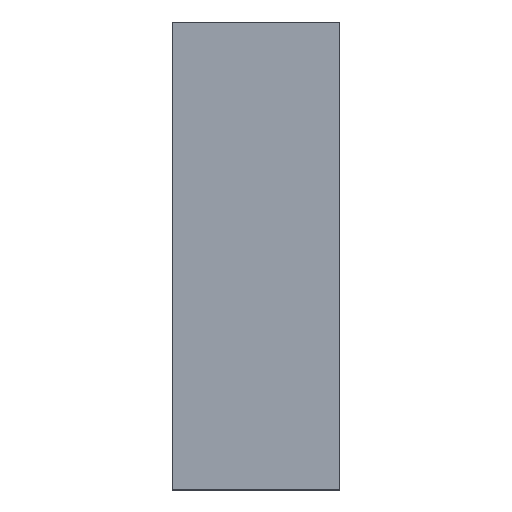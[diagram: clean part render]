
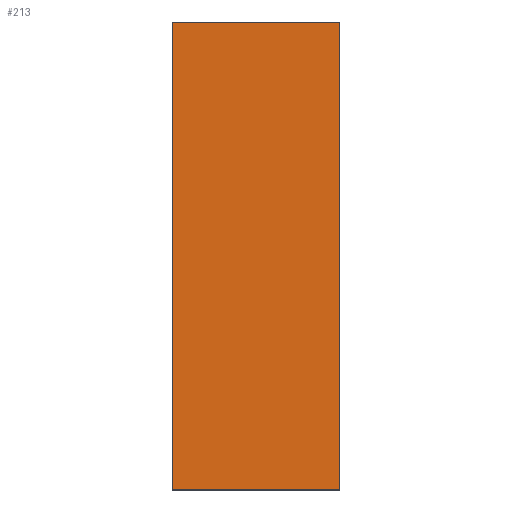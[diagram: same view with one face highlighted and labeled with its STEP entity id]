
A CAD part, top view. The second image highlights one B-rep face of the part: STEP entity #213.
In plain terms, the highlighted planar face has unit normal (0, 0, 1).
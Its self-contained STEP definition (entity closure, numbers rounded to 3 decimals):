
#24 = VERTEX_POINT('',#25);
#25 = CARTESIAN_POINT('',(13.5,-44.5,0.1));
#32 = PLANE('',#33);
#33 = AXIS2_PLACEMENT_3D('',#34,#35,#36);
#34 = CARTESIAN_POINT('',(13.5,-44.5,-2.1));
#35 = DIRECTION('',(1.,0.,-0.));
#36 = DIRECTION('',(0.,0.,1.));
#44 = PLANE('',#45);
#45 = AXIS2_PLACEMENT_3D('',#46,#47,#48);
#46 = CARTESIAN_POINT('',(13.5,-44.5,-2.1));
#47 = DIRECTION('',(-0.,1.,0.));
#48 = DIRECTION('',(0.,0.,1.));
#85 = VERTEX_POINT('',#86);
#86 = CARTESIAN_POINT('',(13.5,-23.5,0.1));
#100 = PLANE('',#101);
#101 = AXIS2_PLACEMENT_3D('',#102,#103,#104);
#102 = CARTESIAN_POINT('',(13.5,-23.5,-2.1));
#103 = DIRECTION('',(-0.,1.,0.));
#104 = DIRECTION('',(0.,0.,1.));
#112 = EDGE_CURVE('',#24,#85,#113,.T.);
#113 = SURFACE_CURVE('',#114,(#118,#125),.PCURVE_S1.);
#114 = LINE('',#115,#116);
#115 = CARTESIAN_POINT('',(13.5,-44.5,0.1));
#116 = VECTOR('',#117,1.);
#117 = DIRECTION('',(-0.,1.,0.));
#118 = PCURVE('',#32,#119);
#119 = DEFINITIONAL_REPRESENTATION('',(#120),#124);
#120 = LINE('',#121,#122);
#121 = CARTESIAN_POINT('',(2.2,0.));
#122 = VECTOR('',#123,1.);
#123 = DIRECTION('',(0.,-1.));
#124 = ( GEOMETRIC_REPRESENTATION_CONTEXT(2) 
PARAMETRIC_REPRESENTATION_CONTEXT() REPRESENTATION_CONTEXT('2D SPACE',''
  ) );
#125 = PCURVE('',#126,#131);
#126 = PLANE('',#127);
#127 = AXIS2_PLACEMENT_3D('',#128,#129,#130);
#128 = CARTESIAN_POINT('',(13.5,-44.5,0.1));
#129 = DIRECTION('',(0.,0.,1.));
#130 = DIRECTION('',(1.,0.,-0.));
#131 = DEFINITIONAL_REPRESENTATION('',(#132),#136);
#132 = LINE('',#133,#134);
#133 = CARTESIAN_POINT('',(0.,0.));
#134 = VECTOR('',#135,1.);
#135 = DIRECTION('',(0.,1.));
#136 = ( GEOMETRIC_REPRESENTATION_CONTEXT(2) 
PARAMETRIC_REPRESENTATION_CONTEXT() REPRESENTATION_CONTEXT('2D SPACE',''
  ) );
#165 = EDGE_CURVE('',#24,#166,#168,.T.);
#166 = VERTEX_POINT('',#167);
#167 = CARTESIAN_POINT('',(21.,-44.5,0.1));
#168 = SURFACE_CURVE('',#169,(#173,#180),.PCURVE_S1.);
#169 = LINE('',#170,#171);
#170 = CARTESIAN_POINT('',(13.5,-44.5,0.1));
#171 = VECTOR('',#172,1.);
#172 = DIRECTION('',(1.,0.,-0.));
#173 = PCURVE('',#44,#174);
#174 = DEFINITIONAL_REPRESENTATION('',(#175),#179);
#175 = LINE('',#176,#177);
#176 = CARTESIAN_POINT('',(2.2,0.));
#177 = VECTOR('',#178,1.);
#178 = DIRECTION('',(0.,1.));
#179 = ( GEOMETRIC_REPRESENTATION_CONTEXT(2) 
PARAMETRIC_REPRESENTATION_CONTEXT() REPRESENTATION_CONTEXT('2D SPACE',''
  ) );
#180 = PCURVE('',#126,#181);
#181 = DEFINITIONAL_REPRESENTATION('',(#182),#186);
#182 = LINE('',#183,#184);
#183 = CARTESIAN_POINT('',(0.,0.));
#184 = VECTOR('',#185,1.);
#185 = DIRECTION('',(1.,0.));
#186 = ( GEOMETRIC_REPRESENTATION_CONTEXT(2) 
PARAMETRIC_REPRESENTATION_CONTEXT() REPRESENTATION_CONTEXT('2D SPACE',''
  ) );
#202 = PLANE('',#203);
#203 = AXIS2_PLACEMENT_3D('',#204,#205,#206);
#204 = CARTESIAN_POINT('',(21.,-44.5,-2.1));
#205 = DIRECTION('',(1.,0.,-0.));
#206 = DIRECTION('',(0.,0.,1.));
#213 = ADVANCED_FACE('',(#214),#126,.T.);
#214 = FACE_BOUND('',#215,.T.);
#215 = EDGE_LOOP('',(#216,#217,#218,#241));
#216 = ORIENTED_EDGE('',*,*,#112,.F.);
#217 = ORIENTED_EDGE('',*,*,#165,.T.);
#218 = ORIENTED_EDGE('',*,*,#219,.T.);
#219 = EDGE_CURVE('',#166,#220,#222,.T.);
#220 = VERTEX_POINT('',#221);
#221 = CARTESIAN_POINT('',(21.,-23.5,0.1));
#222 = SURFACE_CURVE('',#223,(#227,#234),.PCURVE_S1.);
#223 = LINE('',#224,#225);
#224 = CARTESIAN_POINT('',(21.,-44.5,0.1));
#225 = VECTOR('',#226,1.);
#226 = DIRECTION('',(-0.,1.,0.));
#227 = PCURVE('',#126,#228);
#228 = DEFINITIONAL_REPRESENTATION('',(#229),#233);
#229 = LINE('',#230,#231);
#230 = CARTESIAN_POINT('',(7.5,0.));
#231 = VECTOR('',#232,1.);
#232 = DIRECTION('',(0.,1.));
#233 = ( GEOMETRIC_REPRESENTATION_CONTEXT(2) 
PARAMETRIC_REPRESENTATION_CONTEXT() REPRESENTATION_CONTEXT('2D SPACE',''
  ) );
#234 = PCURVE('',#202,#235);
#235 = DEFINITIONAL_REPRESENTATION('',(#236),#240);
#236 = LINE('',#237,#238);
#237 = CARTESIAN_POINT('',(2.2,0.));
#238 = VECTOR('',#239,1.);
#239 = DIRECTION('',(0.,-1.));
#240 = ( GEOMETRIC_REPRESENTATION_CONTEXT(2) 
PARAMETRIC_REPRESENTATION_CONTEXT() REPRESENTATION_CONTEXT('2D SPACE',''
  ) );
#241 = ORIENTED_EDGE('',*,*,#242,.F.);
#242 = EDGE_CURVE('',#85,#220,#243,.T.);
#243 = SURFACE_CURVE('',#244,(#248,#255),.PCURVE_S1.);
#244 = LINE('',#245,#246);
#245 = CARTESIAN_POINT('',(13.5,-23.5,0.1));
#246 = VECTOR('',#247,1.);
#247 = DIRECTION('',(1.,0.,-0.));
#248 = PCURVE('',#126,#249);
#249 = DEFINITIONAL_REPRESENTATION('',(#250),#254);
#250 = LINE('',#251,#252);
#251 = CARTESIAN_POINT('',(0.,21.));
#252 = VECTOR('',#253,1.);
#253 = DIRECTION('',(1.,0.));
#254 = ( GEOMETRIC_REPRESENTATION_CONTEXT(2) 
PARAMETRIC_REPRESENTATION_CONTEXT() REPRESENTATION_CONTEXT('2D SPACE',''
  ) );
#255 = PCURVE('',#100,#256);
#256 = DEFINITIONAL_REPRESENTATION('',(#257),#261);
#257 = LINE('',#258,#259);
#258 = CARTESIAN_POINT('',(2.2,0.));
#259 = VECTOR('',#260,1.);
#260 = DIRECTION('',(0.,1.));
#261 = ( GEOMETRIC_REPRESENTATION_CONTEXT(2) 
PARAMETRIC_REPRESENTATION_CONTEXT() REPRESENTATION_CONTEXT('2D SPACE',''
  ) );
